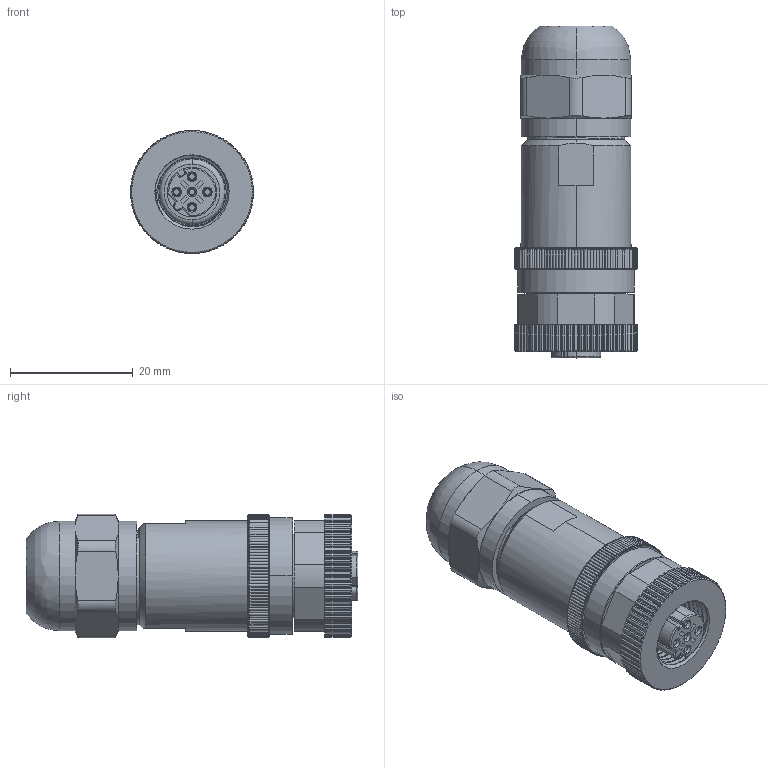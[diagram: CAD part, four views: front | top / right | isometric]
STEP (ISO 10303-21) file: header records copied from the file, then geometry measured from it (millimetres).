
FILE_DESCRIPTION((''),'2;1');
FILE_NAME('XC-M12P-WK-PG9','2025-06-23T16:11:00',('lyj'),(''),'CREO PARAMETRIC BY PTC INC, 2019010','CREO PARAMETRIC BY PTC INC, 2019010','');
FILE_SCHEMA(('CONFIG_CONTROL_DESIGN'));
Length unit declared in the file: millimetre
Products named in the file (1): XC-M12P-WK-PG9
Bounding box: 20 x 54 x 20.16 mm (x, y, z)
Volume: 8392.3 mm3; surface area: 12831.8 mm2
Topology: 1 solids, 19 shells, 1840 faces, 4810 edges, 3067 vertices
Faces by surface type: cylinder 864, plane 468, cone 385, bspline 63, torus 31, extrusion 29
Entity records: 90592 total; most frequent: CARTESIAN_POINT 47029, ORIENTED_EDGE 9620, DIRECTION 8469, EDGE_CURVE 4810, AXIS2_PLACEMENT_3D 3353, VERTEX_POINT 3067, EDGE_LOOP 1943, FACE_OUTER_BOUND 1840
